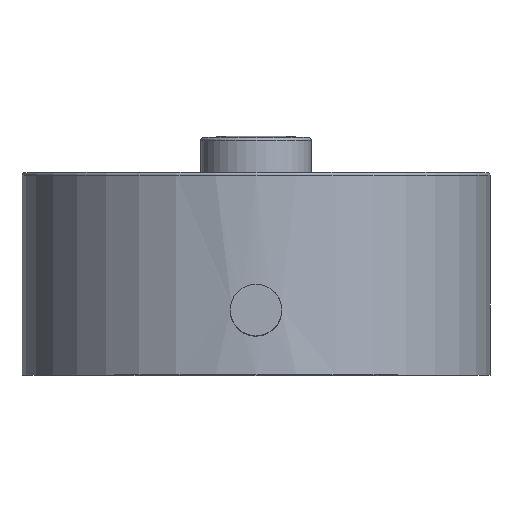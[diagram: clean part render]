
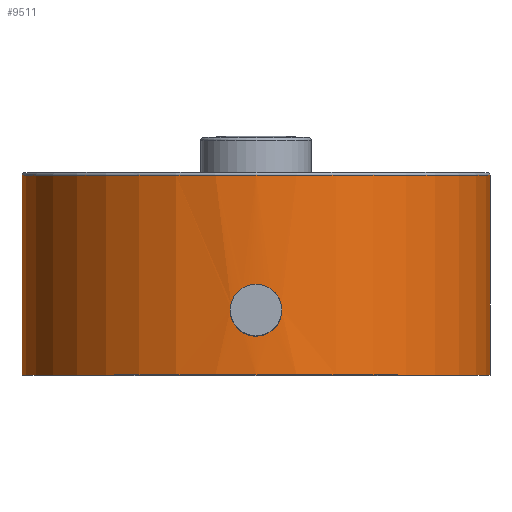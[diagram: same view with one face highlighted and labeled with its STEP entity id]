
A CAD part, top view. The second image highlights one B-rep face of the part: STEP entity #9511.
In plain terms, the highlighted cylindrical face has radius 12.7 mm (diameter 25.4 mm), a full revolution.
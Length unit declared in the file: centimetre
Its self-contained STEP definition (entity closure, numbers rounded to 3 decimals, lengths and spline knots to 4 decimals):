
#2109=B_SPLINE_CURVE_WITH_KNOTS('',3,(#12071,#12072,#12073,#12074,#12075,
#12076,#12077,#12078,#12079,#12080,#12081,#12082,#12083,#12084,#12085,#12086,
#12087,#12088,#12089,#12090,#12091,#12092,#12093,#12094,#12095,#12096,#12097,
#12098,#12099,#12100,#12101,#12102,#12103,#12104),.UNSPECIFIED.,.T.,.U.,
(4,2,2,2,2,2,2,2,2,2,2,2,2,2,2,2,4),(0.,0.0528,0.1056,
0.1583,0.2111,0.2639,0.3167,
0.3695,0.4223,0.475,0.5278,
0.5806,0.6334,0.6862,0.739,0.7917,
0.8445),.UNSPECIFIED.);
#3449=VERTEX_POINT('',#12018);
#3455=VERTEX_POINT('',#12070);
#3456=VERTEX_POINT('',#12105);
#4331=CIRCLE('',#10021,1.27);
#4336=CIRCLE('',#10033,1.27);
#4401=EDGE_CURVE('',#3449,#3449,#4331,.T.);
#4407=EDGE_CURVE('',#3455,#3455,#4336,.T.);
#4408=EDGE_CURVE('',#3456,#3456,#2109,.T.);
#5729=ORIENTED_EDGE('',*,*,#4401,.F.);
#5730=ORIENTED_EDGE('',*,*,#4407,.T.);
#5731=ORIENTED_EDGE('',*,*,#4408,.T.);
#8357=EDGE_LOOP('',(#5729));
#8358=EDGE_LOOP('',(#5730));
#8359=EDGE_LOOP('',(#5731));
#8937=FACE_BOUND('',#8357,.T.);
#8938=FACE_BOUND('',#8358,.T.);
#8939=FACE_BOUND('',#8359,.T.);
#9511=ADVANCED_FACE('',(#8937,#8938,#8939),#16028,.T.);
#10021=AXIS2_PLACEMENT_3D('',#12017,#10480,#10481);
#10032=AXIS2_PLACEMENT_3D('',#12068,#10499,#10500);
#10033=AXIS2_PLACEMENT_3D('',#12069,#10501,#10502);
#10480=DIRECTION('',(0.,1.,0.));
#10481=DIRECTION('',(0.,0.,-1.27));
#10499=DIRECTION('',(0.,1.,0.));
#10500=DIRECTION('',(1.27,0.,0.));
#10501=DIRECTION('',(0.,1.,0.));
#10502=DIRECTION('',(1.27,0.,0.));
#12017=CARTESIAN_POINT('',(0.,1.085,0.));
#12018=CARTESIAN_POINT('',(0.,1.085,-1.27));
#12068=CARTESIAN_POINT('',(0.,0.45,0.));
#12069=CARTESIAN_POINT('',(0.,0.,0.));
#12070=CARTESIAN_POINT('',(1.27,0.,0.));
#12071=CARTESIAN_POINT('',(0.14,0.35,1.2623));
#12072=CARTESIAN_POINT('',(0.14,0.3324,1.2623));
#12073=CARTESIAN_POINT('',(0.1365,0.3136,1.2627));
#12074=CARTESIAN_POINT('',(0.1222,0.2792,1.2641));
#12075=CARTESIAN_POINT('',(0.1114,0.2634,1.2652));
#12076=CARTESIAN_POINT('',(0.0866,0.2386,1.2671));
#12077=CARTESIAN_POINT('',(0.0708,0.2278,1.2681));
#12078=CARTESIAN_POINT('',(0.0364,0.2135,1.2696));
#12079=CARTESIAN_POINT('',(0.0176,0.21,1.27));
#12080=CARTESIAN_POINT('',(-0.0176,0.21,1.27));
#12081=CARTESIAN_POINT('',(-0.0364,0.2135,1.2696));
#12082=CARTESIAN_POINT('',(-0.0708,0.2278,1.2681));
#12083=CARTESIAN_POINT('',(-0.0866,0.2386,1.2671));
#12084=CARTESIAN_POINT('',(-0.1114,0.2634,1.2652));
#12085=CARTESIAN_POINT('',(-0.1222,0.2792,1.2641));
#12086=CARTESIAN_POINT('',(-0.1365,0.3136,1.2627));
#12087=CARTESIAN_POINT('',(-0.14,0.3324,1.2623));
#12088=CARTESIAN_POINT('',(-0.14,0.3676,1.2623));
#12089=CARTESIAN_POINT('',(-0.1365,0.3864,1.2627));
#12090=CARTESIAN_POINT('',(-0.1222,0.4208,1.2641));
#12091=CARTESIAN_POINT('',(-0.1114,0.4366,1.2652));
#12092=CARTESIAN_POINT('',(-0.0866,0.4614,1.2671));
#12093=CARTESIAN_POINT('',(-0.0708,0.4722,1.2681));
#12094=CARTESIAN_POINT('',(-0.0364,0.4865,1.2696));
#12095=CARTESIAN_POINT('',(-0.0176,0.49,1.27));
#12096=CARTESIAN_POINT('',(0.0176,0.49,1.27));
#12097=CARTESIAN_POINT('',(0.0364,0.4865,1.2696));
#12098=CARTESIAN_POINT('',(0.0708,0.4722,1.2681));
#12099=CARTESIAN_POINT('',(0.0866,0.4614,1.2671));
#12100=CARTESIAN_POINT('',(0.1114,0.4366,1.2652));
#12101=CARTESIAN_POINT('',(0.1222,0.4208,1.2641));
#12102=CARTESIAN_POINT('',(0.1365,0.3864,1.2627));
#12103=CARTESIAN_POINT('',(0.14,0.3676,1.2623));
#12104=CARTESIAN_POINT('',(0.14,0.35,1.2623));
#12105=CARTESIAN_POINT('',(0.14,0.35,1.2623));
#16028=CYLINDRICAL_SURFACE('',#10032,1.27);
